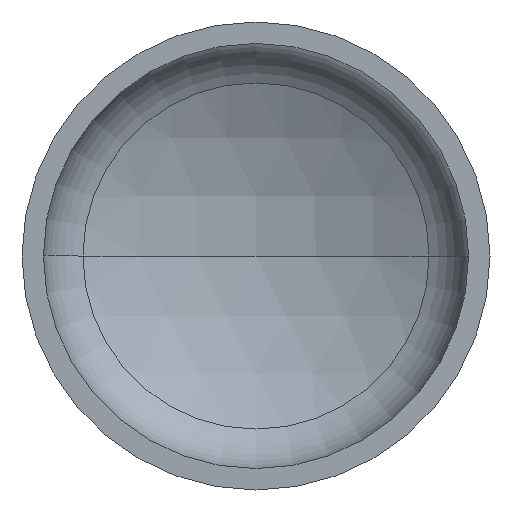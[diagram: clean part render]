
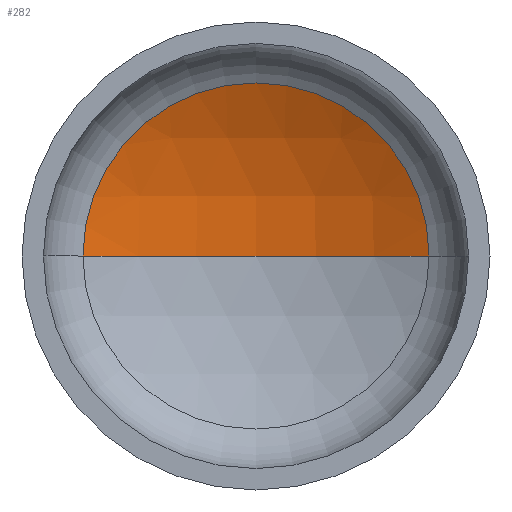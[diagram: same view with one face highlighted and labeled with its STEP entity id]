
A CAD part, front view. The second image highlights one B-rep face of the part: STEP entity #282.
In plain terms, the highlighted spherical face has radius 560 mm.
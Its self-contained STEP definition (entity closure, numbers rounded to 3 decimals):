
#4 = AXIS2_PLACEMENT_3D ( 'NONE', #338, #383, #163 ) ;
#5 = AXIS2_PLACEMENT_3D ( 'NONE', #166, #362, #402 ) ;
#12 = VERTEX_POINT ( 'NONE', #353 ) ;
#18 = AXIS2_PLACEMENT_3D ( 'NONE', #162, #158, #161 ) ;
#19 = AXIS2_PLACEMENT_3D ( 'NONE', #45, #51, #387 ) ;
#28 = EDGE_LOOP ( 'NONE', ( #151, #121, #133 ) ) ;
#45 = CARTESIAN_POINT ( 'NONE',  ( 0., -299.044, 0. ) ) ;
#51 = DIRECTION ( 'NONE',  ( 0., 0., -1. ) ) ;
#67 = VERTEX_POINT ( 'NONE', #237 ) ;
#94 = CIRCLE ( 'NONE', #4, 560. ) ;
#111 = VERTEX_POINT ( 'NONE', #266 ) ;
#114 = FACE_OUTER_BOUND ( 'NONE', #28, .T. ) ;
#121 = ORIENTED_EDGE ( 'NONE', *, *, #335, .T. ) ;
#133 = ORIENTED_EDGE ( 'NONE', *, *, #332, .T. ) ;
#151 = ORIENTED_EDGE ( 'NONE', *, *, #327, .F. ) ;
#158 = DIRECTION ( 'NONE',  ( 0., 0., 1. ) ) ;
#161 = DIRECTION ( 'NONE',  ( 1., 0., 0. ) ) ;
#162 = CARTESIAN_POINT ( 'NONE',  ( 0., -299.044, 0. ) ) ;
#163 = DIRECTION ( 'NONE',  ( -1., 0., 0. ) ) ;
#166 = CARTESIAN_POINT ( 'NONE',  ( 0., 197.544, 0. ) ) ;
#237 = CARTESIAN_POINT ( 'NONE',  ( 258.844, 197.544, 0. ) ) ;
#257 = CIRCLE ( 'NONE', #18, 560. ) ;
#266 = CARTESIAN_POINT ( 'NONE',  ( 0., 260.956, 0. ) ) ;
#282 = ADVANCED_FACE ( 'NONE', ( #114 ), #329, .F. ) ;
#327 = EDGE_CURVE ( 'NONE', #111, #12, #257, .T. ) ;
#329 = SPHERICAL_SURFACE ( 'NONE', #19, 560. ) ;
#332 = EDGE_CURVE ( 'NONE', #67, #12, #376, .T. ) ;
#335 = EDGE_CURVE ( 'NONE', #111, #67, #94, .T. ) ;
#338 = CARTESIAN_POINT ( 'NONE',  ( 0., -299.044, 0. ) ) ;
#353 = CARTESIAN_POINT ( 'NONE',  ( -258.844, 197.544, 0. ) ) ;
#362 = DIRECTION ( 'NONE',  ( 0., -1., 0. ) ) ;
#376 = CIRCLE ( 'NONE', #5, 258.844 ) ;
#383 = DIRECTION ( 'NONE',  ( 0., 0., -1. ) ) ;
#387 = DIRECTION ( 'NONE',  ( -1., 0., 0. ) ) ;
#402 = DIRECTION ( 'NONE',  ( 1., 0., 0. ) ) ;
